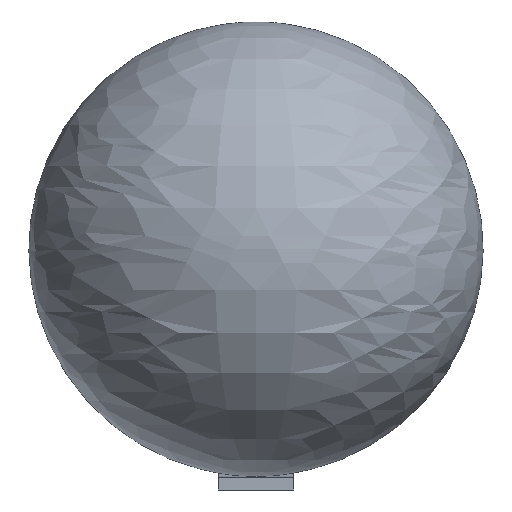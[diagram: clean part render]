
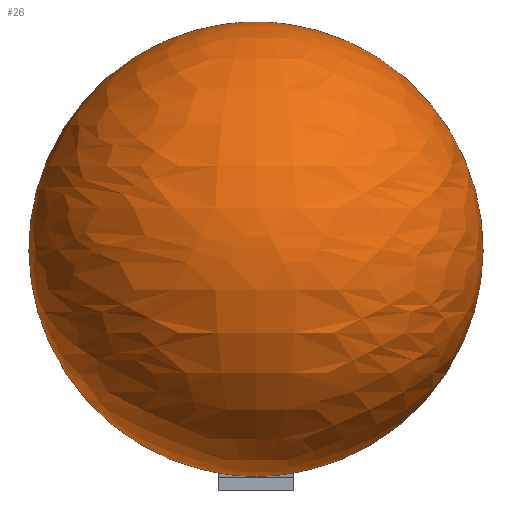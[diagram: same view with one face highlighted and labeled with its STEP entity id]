
A CAD part, front view. The second image highlights one B-rep face of the part: STEP entity #26.
In plain terms, the highlighted free-form (B-spline) face has degree [2, 2] with [5, 5] control points.
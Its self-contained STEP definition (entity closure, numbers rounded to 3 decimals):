
#26=ADVANCED_FACE('',(#37),#169,.T.);
#37=FACE_OUTER_BOUND('',#50,.T.);
#50=EDGE_LOOP('',(#92,#93));
#92=ORIENTED_EDGE('',*,*,#117,.T.);
#93=ORIENTED_EDGE('',*,*,#115,.F.);
#115=EDGE_CURVE('',#155,#156,#139,.T.);
#117=EDGE_CURVE('',#155,#156,#141,.T.);
#139=(
BOUNDED_CURVE()
B_SPLINE_CURVE(2,(#375,#376,#377,#378,#379),.UNSPECIFIED.,.F.,.F.)
B_SPLINE_CURVE_WITH_KNOTS((3,2,3),(-117.81,0.,117.81),
 .UNSPECIFIED.)
CURVE()
GEOMETRIC_REPRESENTATION_ITEM()
RATIONAL_B_SPLINE_CURVE((1.,0.707,1.,0.707,1.))
REPRESENTATION_ITEM('')
);
#141=(
BOUNDED_CURVE()
B_SPLINE_CURVE(2,(#385,#386,#387,#388,#389),.UNSPECIFIED.,.F.,.F.)
B_SPLINE_CURVE_WITH_KNOTS((3,2,3),(-117.81,0.,117.81),
 .UNSPECIFIED.)
CURVE()
GEOMETRIC_REPRESENTATION_ITEM()
RATIONAL_B_SPLINE_CURVE((1.,0.707,1.,0.707,1.))
REPRESENTATION_ITEM('')
);
#155=VERTEX_POINT('',#315);
#156=VERTEX_POINT('',#316);
#169=(
BOUNDED_SURFACE()
B_SPLINE_SURFACE(2,2,((#269,#270,#271,#272,#273),(#274,#275,#276,#277,#278),
(#279,#280,#281,#282,#283),(#284,#285,#286,#287,#288),(#289,#290,#291,#292,
#293)),.UNSPECIFIED.,.F.,.F.,.F.)
B_SPLINE_SURFACE_WITH_KNOTS((3,2,3),(3,2,3),(-117.81,0.,117.81),
(235.619,353.429,471.239),.UNSPECIFIED.)
GEOMETRIC_REPRESENTATION_ITEM()
RATIONAL_B_SPLINE_SURFACE(((1.,0.707,1.,0.707,1.),
(0.707,0.5,0.707,0.5,0.707),(1.,0.707,
1.,0.707,1.),(0.707,0.5,0.707,0.5,0.707),
(1.,0.707,1.,0.707,1.)))
REPRESENTATION_ITEM('')
SURFACE()
);
#269=CARTESIAN_POINT('',(1269.834,-1597.237,154.541));
#270=CARTESIAN_POINT('',(1269.834,-1597.237,154.541));
#271=CARTESIAN_POINT('',(1269.834,-1597.237,154.541));
#272=CARTESIAN_POINT('',(1269.834,-1597.237,154.541));
#273=CARTESIAN_POINT('',(1269.834,-1597.237,154.541));
#274=CARTESIAN_POINT('',(1194.834,-1597.237,154.541));
#275=CARTESIAN_POINT('',(1194.834,-1672.237,154.541));
#276=CARTESIAN_POINT('',(1269.834,-1672.237,154.541));
#277=CARTESIAN_POINT('',(1344.834,-1672.237,154.541));
#278=CARTESIAN_POINT('',(1344.834,-1597.237,154.541));
#279=CARTESIAN_POINT('',(1194.834,-1597.237,79.541));
#280=CARTESIAN_POINT('',(1194.834,-1672.237,79.541));
#281=CARTESIAN_POINT('',(1269.834,-1672.237,79.541));
#282=CARTESIAN_POINT('',(1344.834,-1672.237,79.541));
#283=CARTESIAN_POINT('',(1344.834,-1597.237,79.541));
#284=CARTESIAN_POINT('',(1194.834,-1597.237,4.541));
#285=CARTESIAN_POINT('',(1194.834,-1672.237,4.541));
#286=CARTESIAN_POINT('',(1269.834,-1672.237,4.541));
#287=CARTESIAN_POINT('',(1344.834,-1672.237,4.541));
#288=CARTESIAN_POINT('',(1344.834,-1597.237,4.541));
#289=CARTESIAN_POINT('',(1269.834,-1597.237,4.541));
#290=CARTESIAN_POINT('',(1269.834,-1597.237,4.541));
#291=CARTESIAN_POINT('',(1269.834,-1597.237,4.541));
#292=CARTESIAN_POINT('',(1269.834,-1597.237,4.541));
#293=CARTESIAN_POINT('',(1269.834,-1597.237,4.541));
#315=CARTESIAN_POINT('',(1269.834,-1597.237,154.541));
#316=CARTESIAN_POINT('',(1269.834,-1597.237,4.541));
#375=CARTESIAN_POINT('',(1269.834,-1597.237,154.541));
#376=CARTESIAN_POINT('',(1344.834,-1597.237,154.541));
#377=CARTESIAN_POINT('',(1344.834,-1597.237,79.541));
#378=CARTESIAN_POINT('',(1344.834,-1597.237,4.541));
#379=CARTESIAN_POINT('',(1269.834,-1597.237,4.541));
#385=CARTESIAN_POINT('',(1269.834,-1597.237,154.541));
#386=CARTESIAN_POINT('',(1194.834,-1597.237,154.541));
#387=CARTESIAN_POINT('',(1194.834,-1597.237,79.541));
#388=CARTESIAN_POINT('',(1194.834,-1597.237,4.541));
#389=CARTESIAN_POINT('',(1269.834,-1597.237,4.541));
